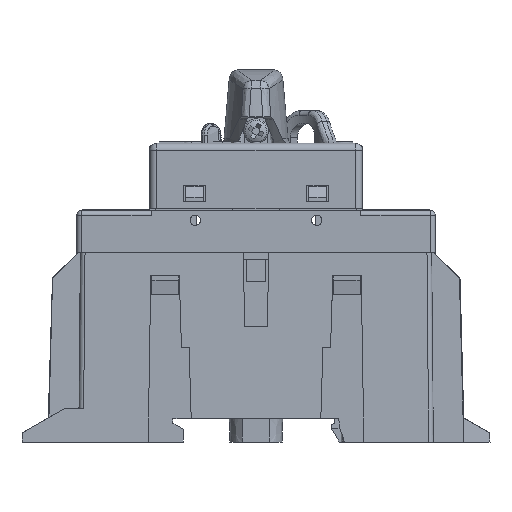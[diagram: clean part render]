
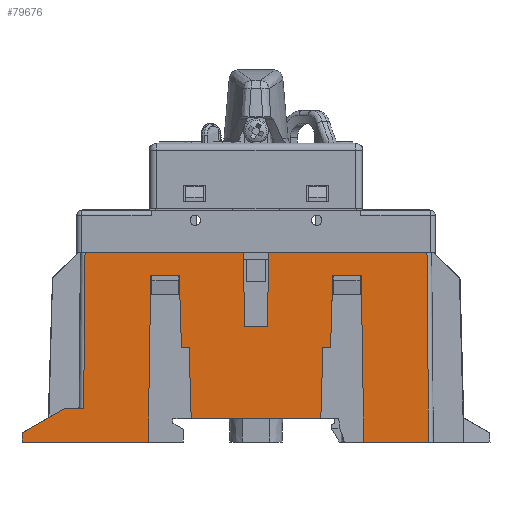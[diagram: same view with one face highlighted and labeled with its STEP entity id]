
A CAD part, left-side view. The second image highlights one B-rep face of the part: STEP entity #79676.
In plain terms, the highlighted planar face has unit normal (-1, 0, 0.009).
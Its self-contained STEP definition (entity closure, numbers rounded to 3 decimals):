
#54998=CARTESIAN_POINT('',(54.351,-23.908,-0.826));
#54999=VERTEX_POINT('',#54998);
#55006=CARTESIAN_POINT('',(54.351,-57.816,-0.826));
#55007=VERTEX_POINT('',#55006);
#55008=CARTESIAN_POINT('',(54.351,-57.816,-0.826));
#55009=DIRECTION('',(0.0,1.0,0.0));
#55010=VECTOR('',#55009,33.908);
#55011=LINE('',#55008,#55010);
#55012=EDGE_CURVE('',#55007,#54999,#55011,.T.);
#55177=CARTESIAN_POINT('',(54.351,15.277,-0.826));
#55178=VERTEX_POINT('',#55177);
#55186=CARTESIAN_POINT('',(54.351,-18.631,-0.826));
#55187=VERTEX_POINT('',#55186);
#55188=CARTESIAN_POINT('',(54.351,-18.631,-0.826));
#55189=DIRECTION('',(0.0,1.0,0.0));
#55190=VECTOR('',#55189,33.908);
#55191=LINE('',#55188,#55190);
#55192=EDGE_CURVE('',#55187,#55178,#55191,.T.);
#77063=CARTESIAN_POINT('',(53.997,1.78,-41.326));
#77064=VERTEX_POINT('',#77063);
#77071=CARTESIAN_POINT('',(53.997,28.748,-41.326));
#77072=VERTEX_POINT('',#77071);
#77073=CARTESIAN_POINT('',(53.997,1.78,-41.326));
#77074=DIRECTION('',(0.0,1.0,0.0));
#77075=VECTOR('',#77074,26.967);
#77076=LINE('',#77073,#77075);
#77077=EDGE_CURVE('',#77064,#77072,#77076,.T.);
#77676=CARTESIAN_POINT('',(54.06,19.568,-34.176));
#77677=VERTEX_POINT('',#77676);
#77684=CARTESIAN_POINT('',(54.06,15.568,-34.176));
#77685=VERTEX_POINT('',#77684);
#77686=CARTESIAN_POINT('',(54.06,15.568,-34.176));
#77687=DIRECTION('',(0.0,1.0,0.0));
#77688=VECTOR('',#77687,4.);
#77689=LINE('',#77686,#77688);
#77690=EDGE_CURVE('',#77685,#77677,#77689,.T.);
#78518=CARTESIAN_POINT('',(54.175,-6.966,-21.026));
#78519=VERTEX_POINT('',#78518);
#78526=CARTESIAN_POINT('',(54.175,-5.322,-21.026));
#78527=VERTEX_POINT('',#78526);
#78528=CARTESIAN_POINT('',(54.175,-6.966,-21.026));
#78529=DIRECTION('',(0.0,1.0,0.0));
#78530=VECTOR('',#78529,1.643);
#78531=LINE('',#78528,#78530);
#78532=EDGE_CURVE('',#78527,#78519,#78531,.F.);
#78647=CARTESIAN_POINT('',(54.308,-37.671,-5.726));
#78648=VERTEX_POINT('',#78647);
#78655=CARTESIAN_POINT('',(54.175,-37.217,-21.026));
#78656=VERTEX_POINT('',#78655);
#78657=CARTESIAN_POINT('',(54.308,-37.671,-5.726));
#78658=DIRECTION('',(-0.009,0.03,-1.));
#78659=VECTOR('',#78658,15.307);
#78660=LINE('',#78657,#78659);
#78661=EDGE_CURVE('',#78656,#78648,#78660,.F.);
#78735=CARTESIAN_POINT('',(54.175,-35.574,-21.026));
#78736=VERTEX_POINT('',#78735);
#78737=CARTESIAN_POINT('',(54.175,-37.217,-21.026));
#78738=DIRECTION('',(0.0,1.0,0.0));
#78739=VECTOR('',#78738,1.643);
#78740=LINE('',#78737,#78739);
#78741=EDGE_CURVE('',#78736,#78656,#78740,.F.);
#79411=CARTESIAN_POINT('',(53.997,-58.17,-41.326));
#79412=VERTEX_POINT('',#79411);
#79413=CARTESIAN_POINT('',(54.351,-57.816,-0.826));
#79414=DIRECTION('',(-0.009,-0.009,-1.));
#79415=VECTOR('',#79414,40.503);
#79416=LINE('',#79413,#79415);
#79417=EDGE_CURVE('',#55007,#79412,#79416,.T.);
#79548=CARTESIAN_POINT('',(54.06,15.568,-34.176));
#79549=DIRECTION('',(0.009,-0.009,1.));
#79550=VECTOR('',#79549,33.353);
#79551=LINE('',#79548,#79550);
#79552=EDGE_CURVE('',#77685,#55178,#79551,.T.);
#79558=CARTESIAN_POINT('',(53.997,15.23,-41.326));
#79559=DIRECTION('',(-1.,0.,0.009));
#79560=DIRECTION('',(-0.009,0.,-1.));
#79561=AXIS2_PLACEMENT_3D('',#79558,#79559,#79560);
#79562=PLANE('',#79561);
#79563=ORIENTED_EDGE('',*,*,#79417,.F.);
#79564=ORIENTED_EDGE('',*,*,#55012,.T.);
#79565=CARTESIAN_POINT('',(54.212,-23.77,-16.726));
#79566=VERTEX_POINT('',#79565);
#79567=CARTESIAN_POINT('',(54.351,-23.908,-0.826));
#79568=DIRECTION('',(-0.009,0.009,-1.));
#79569=VECTOR('',#79568,15.901);
#79570=LINE('',#79567,#79569);
#79571=EDGE_CURVE('',#54999,#79566,#79570,.T.);
#79572=ORIENTED_EDGE('',*,*,#79571,.T.);
#79573=CARTESIAN_POINT('',(54.212,-18.77,-16.726));
#79574=VERTEX_POINT('',#79573);
#79575=CARTESIAN_POINT('',(54.212,-23.77,-16.726));
#79576=DIRECTION('',(0.0,1.0,0.0));
#79577=VECTOR('',#79576,5.);
#79578=LINE('',#79575,#79577);
#79579=EDGE_CURVE('',#79566,#79574,#79578,.T.);
#79580=ORIENTED_EDGE('',*,*,#79579,.T.);
#79581=CARTESIAN_POINT('',(54.212,-18.77,-16.726));
#79582=DIRECTION('',(0.009,0.009,1.));
#79583=VECTOR('',#79582,15.901);
#79584=LINE('',#79581,#79583);
#79585=EDGE_CURVE('',#79574,#55187,#79584,.T.);
#79586=ORIENTED_EDGE('',*,*,#79585,.T.);
#79587=ORIENTED_EDGE('',*,*,#55192,.T.);
#79588=ORIENTED_EDGE('',*,*,#79552,.F.);
#79589=ORIENTED_EDGE('',*,*,#77690,.T.);
#79590=CARTESIAN_POINT('',(54.015,28.73,-39.326));
#79591=VERTEX_POINT('',#79590);
#79592=CARTESIAN_POINT('',(54.015,28.73,-39.326));
#79593=DIRECTION('',(0.004,-0.872,0.49));
#79594=VECTOR('',#79593,10.511);
#79595=LINE('',#79592,#79594);
#79596=EDGE_CURVE('',#77677,#79591,#79595,.F.);
#79597=ORIENTED_EDGE('',*,*,#79596,.T.);
#79598=CARTESIAN_POINT('',(54.015,28.73,-39.326));
#79599=DIRECTION('',(-0.009,0.009,-1.));
#79600=VECTOR('',#79599,2.);
#79601=LINE('',#79598,#79600);
#79602=EDGE_CURVE('',#77072,#79591,#79601,.F.);
#79603=ORIENTED_EDGE('',*,*,#79602,.F.);
#79604=ORIENTED_EDGE('',*,*,#77077,.F.);
#79605=CARTESIAN_POINT('',(54.308,1.221,-5.726));
#79606=VERTEX_POINT('',#79605);
#79607=CARTESIAN_POINT('',(54.308,1.221,-5.726));
#79608=DIRECTION('',(-0.009,0.016,-1.));
#79609=VECTOR('',#79608,35.606);
#79610=LINE('',#79607,#79609);
#79611=EDGE_CURVE('',#77064,#79606,#79610,.F.);
#79612=ORIENTED_EDGE('',*,*,#79611,.T.);
#79613=CARTESIAN_POINT('',(54.308,-4.868,-5.726));
#79614=VERTEX_POINT('',#79613);
#79615=CARTESIAN_POINT('',(54.308,-4.868,-5.726));
#79616=DIRECTION('',(0.0,1.0,0.0));
#79617=VECTOR('',#79616,6.089);
#79618=LINE('',#79615,#79617);
#79619=EDGE_CURVE('',#79606,#79614,#79618,.F.);
#79620=ORIENTED_EDGE('',*,*,#79619,.T.);
#79621=CARTESIAN_POINT('',(54.175,-5.322,-21.026));
#79622=DIRECTION('',(0.009,0.03,1.));
#79623=VECTOR('',#79622,15.307);
#79624=LINE('',#79621,#79623);
#79625=EDGE_CURVE('',#79614,#78527,#79624,.F.);
#79626=ORIENTED_EDGE('',*,*,#79625,.T.);
#79627=ORIENTED_EDGE('',*,*,#78532,.T.);
#79628=CARTESIAN_POINT('',(54.041,-7.42,-36.326));
#79629=VERTEX_POINT('',#79628);
#79630=CARTESIAN_POINT('',(54.041,-7.42,-36.326));
#79631=DIRECTION('',(0.009,0.03,1.));
#79632=VECTOR('',#79631,15.307);
#79633=LINE('',#79630,#79632);
#79634=EDGE_CURVE('',#78519,#79629,#79633,.F.);
#79635=ORIENTED_EDGE('',*,*,#79634,.T.);
#79636=CARTESIAN_POINT('',(54.041,-35.12,-36.326));
#79637=VERTEX_POINT('',#79636);
#79638=CARTESIAN_POINT('',(54.041,-35.12,-36.326));
#79639=DIRECTION('',(0.0,1.0,0.0));
#79640=VECTOR('',#79639,27.7);
#79641=LINE('',#79638,#79640);
#79642=EDGE_CURVE('',#79629,#79637,#79641,.F.);
#79643=ORIENTED_EDGE('',*,*,#79642,.T.);
#79644=CARTESIAN_POINT('',(54.175,-35.574,-21.026));
#79645=DIRECTION('',(-0.009,0.03,-1.));
#79646=VECTOR('',#79645,15.307);
#79647=LINE('',#79644,#79646);
#79648=EDGE_CURVE('',#79637,#78736,#79647,.F.);
#79649=ORIENTED_EDGE('',*,*,#79648,.T.);
#79650=ORIENTED_EDGE('',*,*,#78741,.T.);
#79651=ORIENTED_EDGE('',*,*,#78661,.T.);
#79652=CARTESIAN_POINT('',(54.308,-43.76,-5.726));
#79653=VERTEX_POINT('',#79652);
#79654=CARTESIAN_POINT('',(54.308,-43.76,-5.726));
#79655=DIRECTION('',(0.0,1.0,0.0));
#79656=VECTOR('',#79655,6.089);
#79657=LINE('',#79654,#79656);
#79658=EDGE_CURVE('',#78648,#79653,#79657,.F.);
#79659=ORIENTED_EDGE('',*,*,#79658,.T.);
#79660=CARTESIAN_POINT('',(53.997,-44.32,-41.326));
#79661=VERTEX_POINT('',#79660);
#79662=CARTESIAN_POINT('',(53.997,-44.32,-41.326));
#79663=DIRECTION('',(0.009,0.016,1.));
#79664=VECTOR('',#79663,35.606);
#79665=LINE('',#79662,#79664);
#79666=EDGE_CURVE('',#79653,#79661,#79665,.F.);
#79667=ORIENTED_EDGE('',*,*,#79666,.T.);
#79668=CARTESIAN_POINT('',(53.997,-58.17,-41.326));
#79669=DIRECTION('',(0.0,1.0,0.0));
#79670=VECTOR('',#79669,13.85);
#79671=LINE('',#79668,#79670);
#79672=EDGE_CURVE('',#79412,#79661,#79671,.T.);
#79673=ORIENTED_EDGE('',*,*,#79672,.F.);
#79674=EDGE_LOOP('',(#79563,#79564,#79572,#79580,#79586,#79587,#79588,#79589,#79597,#79603,#79604,#79612,#79620,#79626,#79627,#79635,#79643,#79649,#79650,#79651,#79659,#79667,#79673));
#79675=FACE_OUTER_BOUND('',#79674,.T.);
#79676=ADVANCED_FACE('',(#79675),#79562,.T.);
